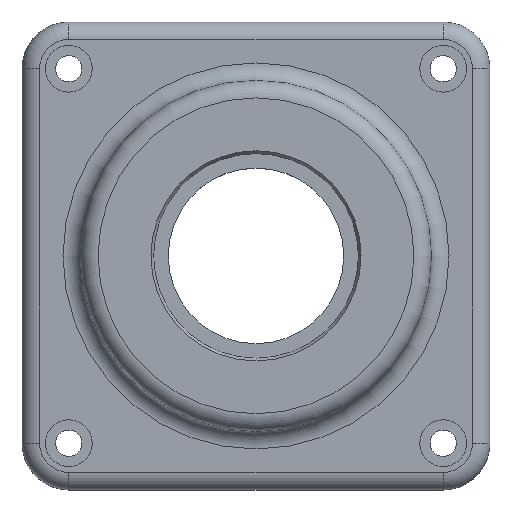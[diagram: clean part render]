
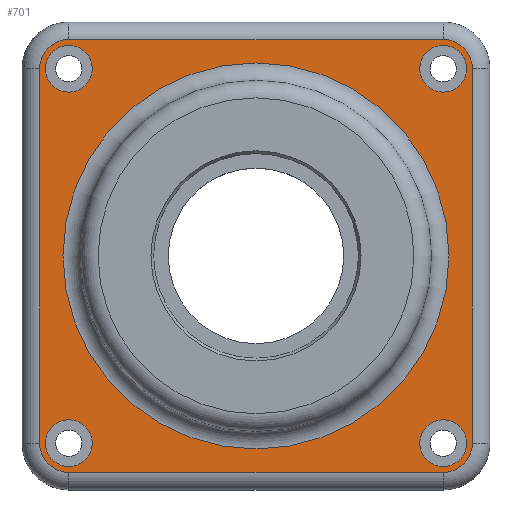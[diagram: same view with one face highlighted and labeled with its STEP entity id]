
A CAD part, top view. The second image highlights one B-rep face of the part: STEP entity #701.
In plain terms, the highlighted planar face has unit normal (0, 0, 1).
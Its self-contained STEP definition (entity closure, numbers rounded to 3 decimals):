
#30=FACE_BOUND('',#229,.T.);
#31=FACE_BOUND('',#230,.T.);
#32=FACE_BOUND('',#231,.T.);
#33=FACE_BOUND('',#232,.T.);
#34=FACE_BOUND('',#233,.T.);
#44=PLANE('',#814);
#69=LINE('',#1242,#105);
#70=LINE('',#1246,#106);
#71=LINE('',#1250,#107);
#72=LINE('',#1253,#108);
#105=VECTOR('',#1017,10.);
#106=VECTOR('',#1020,10.);
#107=VECTOR('',#1023,10.);
#108=VECTOR('',#1026,10.);
#170=FACE_OUTER_BOUND('',#228,.T.);
#228=EDGE_LOOP('',(#583,#584,#585,#586,#587,#588,#589,#590));
#229=EDGE_LOOP('',(#591));
#230=EDGE_LOOP('',(#592));
#231=EDGE_LOOP('',(#593));
#232=EDGE_LOOP('',(#594));
#233=EDGE_LOOP('',(#595));
#267=CIRCLE('',#762,4.);
#270=CIRCLE('',#768,4.);
#273=CIRCLE('',#774,4.);
#276=CIRCLE('',#780,4.);
#296=CIRCLE('',#813,33.);
#297=CIRCLE('',#815,5.);
#298=CIRCLE('',#816,5.);
#299=CIRCLE('',#817,5.);
#300=CIRCLE('',#818,5.);
#331=VERTEX_POINT('',#1144);
#334=VERTEX_POINT('',#1155);
#337=VERTEX_POINT('',#1166);
#340=VERTEX_POINT('',#1177);
#357=VERTEX_POINT('',#1234);
#358=VERTEX_POINT('',#1238);
#359=VERTEX_POINT('',#1239);
#360=VERTEX_POINT('',#1241);
#361=VERTEX_POINT('',#1243);
#362=VERTEX_POINT('',#1245);
#363=VERTEX_POINT('',#1247);
#364=VERTEX_POINT('',#1249);
#365=VERTEX_POINT('',#1251);
#394=EDGE_CURVE('',#331,#331,#267,.T.);
#399=EDGE_CURVE('',#334,#334,#270,.T.);
#404=EDGE_CURVE('',#337,#337,#273,.T.);
#409=EDGE_CURVE('',#340,#340,#276,.T.);
#437=EDGE_CURVE('',#357,#357,#296,.T.);
#438=EDGE_CURVE('',#358,#359,#297,.T.);
#439=EDGE_CURVE('',#360,#358,#69,.T.);
#440=EDGE_CURVE('',#361,#360,#298,.T.);
#441=EDGE_CURVE('',#362,#361,#70,.T.);
#442=EDGE_CURVE('',#363,#362,#299,.T.);
#443=EDGE_CURVE('',#364,#363,#71,.T.);
#444=EDGE_CURVE('',#365,#364,#300,.T.);
#445=EDGE_CURVE('',#359,#365,#72,.T.);
#583=ORIENTED_EDGE('',*,*,#438,.F.);
#584=ORIENTED_EDGE('',*,*,#439,.F.);
#585=ORIENTED_EDGE('',*,*,#440,.F.);
#586=ORIENTED_EDGE('',*,*,#441,.F.);
#587=ORIENTED_EDGE('',*,*,#442,.F.);
#588=ORIENTED_EDGE('',*,*,#443,.F.);
#589=ORIENTED_EDGE('',*,*,#444,.F.);
#590=ORIENTED_EDGE('',*,*,#445,.F.);
#591=ORIENTED_EDGE('',*,*,#394,.T.);
#592=ORIENTED_EDGE('',*,*,#399,.T.);
#593=ORIENTED_EDGE('',*,*,#404,.T.);
#594=ORIENTED_EDGE('',*,*,#409,.T.);
#595=ORIENTED_EDGE('',*,*,#437,.F.);
#701=ADVANCED_FACE('',(#170,#30,#31,#32,#33,#34),#44,.T.);
#762=AXIS2_PLACEMENT_3D('',#1145,#895,#896);
#768=AXIS2_PLACEMENT_3D('',#1156,#909,#910);
#774=AXIS2_PLACEMENT_3D('',#1167,#923,#924);
#780=AXIS2_PLACEMENT_3D('',#1178,#937,#938);
#813=AXIS2_PLACEMENT_3D('',#1236,#1011,#1012);
#814=AXIS2_PLACEMENT_3D('',#1237,#1013,#1014);
#815=AXIS2_PLACEMENT_3D('',#1240,#1015,#1016);
#816=AXIS2_PLACEMENT_3D('',#1244,#1018,#1019);
#817=AXIS2_PLACEMENT_3D('',#1248,#1021,#1022);
#818=AXIS2_PLACEMENT_3D('',#1252,#1024,#1025);
#895=DIRECTION('center_axis',(0.,0.,-1.));
#896=DIRECTION('ref_axis',(1.,0.,0.));
#909=DIRECTION('center_axis',(0.,0.,-1.));
#910=DIRECTION('ref_axis',(1.,0.,0.));
#923=DIRECTION('center_axis',(0.,0.,-1.));
#924=DIRECTION('ref_axis',(1.,0.,0.));
#937=DIRECTION('center_axis',(0.,0.,-1.));
#938=DIRECTION('ref_axis',(1.,0.,0.));
#1011=DIRECTION('center_axis',(0.,0.,1.));
#1012=DIRECTION('ref_axis',(-1.,0.,0.));
#1013=DIRECTION('center_axis',(0.,0.,1.));
#1014=DIRECTION('ref_axis',(1.,0.,0.));
#1015=DIRECTION('center_axis',(0.,0.,-1.));
#1016=DIRECTION('ref_axis',(-0.707,0.707,0.));
#1017=DIRECTION('',(0.,1.,0.));
#1018=DIRECTION('center_axis',(0.,0.,-1.));
#1019=DIRECTION('ref_axis',(-0.707,-0.707,0.));
#1020=DIRECTION('',(-1.,0.,0.));
#1021=DIRECTION('center_axis',(0.,0.,-1.));
#1022=DIRECTION('ref_axis',(0.707,-0.707,0.));
#1023=DIRECTION('',(0.,-1.,0.));
#1024=DIRECTION('center_axis',(0.,0.,-1.));
#1025=DIRECTION('ref_axis',(0.707,0.707,0.));
#1026=DIRECTION('',(1.,0.,0.));
#1144=CARTESIAN_POINT('',(28.,-32.,7.));
#1145=CARTESIAN_POINT('Origin',(32.,-32.,7.));
#1155=CARTESIAN_POINT('',(-36.,32.,7.));
#1156=CARTESIAN_POINT('Origin',(-32.,32.,7.));
#1166=CARTESIAN_POINT('',(28.,32.,7.));
#1167=CARTESIAN_POINT('Origin',(32.,32.,7.));
#1177=CARTESIAN_POINT('',(-36.,-32.,7.));
#1178=CARTESIAN_POINT('Origin',(-32.,-32.,7.));
#1234=CARTESIAN_POINT('',(33.,0.,7.));
#1236=CARTESIAN_POINT('Origin',(0.,0.,7.));
#1237=CARTESIAN_POINT('Origin',(0.,0.,7.));
#1238=CARTESIAN_POINT('',(-37.,32.,7.));
#1239=CARTESIAN_POINT('',(-32.,37.,7.));
#1240=CARTESIAN_POINT('Origin',(-32.,32.,7.));
#1241=CARTESIAN_POINT('',(-37.,-32.,7.));
#1242=CARTESIAN_POINT('',(-37.,20.,7.));
#1243=CARTESIAN_POINT('',(-32.,-37.,7.));
#1244=CARTESIAN_POINT('Origin',(-32.,-32.,7.));
#1245=CARTESIAN_POINT('',(32.,-37.,7.));
#1246=CARTESIAN_POINT('',(-20.,-37.,7.));
#1247=CARTESIAN_POINT('',(37.,-32.,7.));
#1248=CARTESIAN_POINT('Origin',(32.,-32.,7.));
#1249=CARTESIAN_POINT('',(37.,32.,7.));
#1250=CARTESIAN_POINT('',(37.,-20.,7.));
#1251=CARTESIAN_POINT('',(32.,37.,7.));
#1252=CARTESIAN_POINT('Origin',(32.,32.,7.));
#1253=CARTESIAN_POINT('',(20.,37.,7.));
